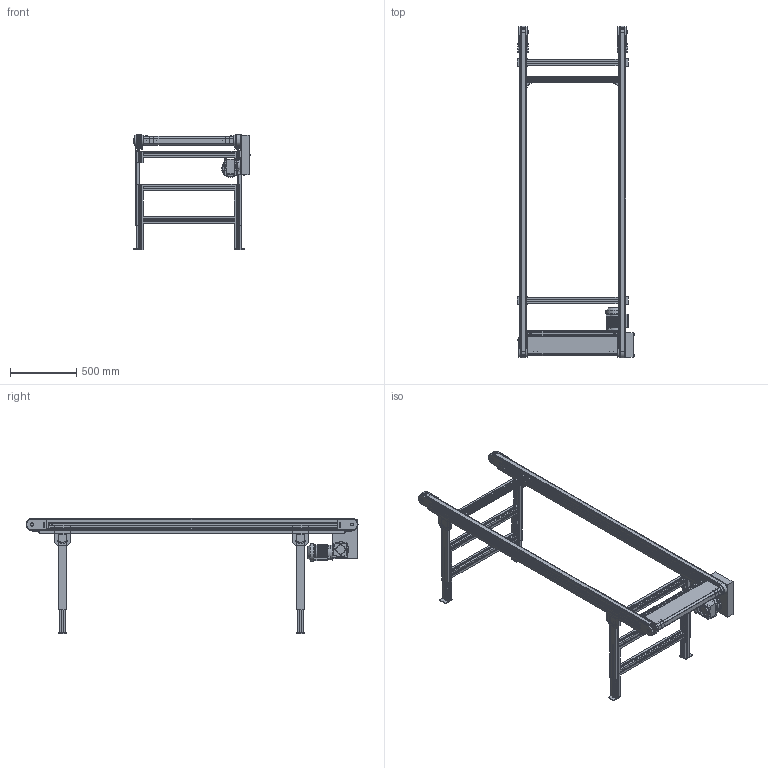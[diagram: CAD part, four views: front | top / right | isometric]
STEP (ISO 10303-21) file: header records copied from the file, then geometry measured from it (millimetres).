
FILE_DESCRIPTION(/* description */ (''),/* implementation_level */ '2;1');
FILE_NAME(/* name */ 'C:\Marketing\01_Versamove-SPU_STEP-Dateien-Homepage\Versamove plus\STEP-Dateien\Zahnriemenförderer_ZRF-P-2010_B800_L2500.stp',/* time_stamp */ '2016-12-22T11:34:15+01:00',/* author */ ('herbert.engels'),/* organization */ (''),/* preprocessor_version */ 'ST-DEVELOPER v15.6',/* originating_system */ 'Autodesk Inventor 2015',/* authorisation */ '');
FILE_SCHEMA (('CONFIG_CONTROL_DESIGN'));
Products named in the file (1): Zahnriemenförderer_ZRF-P-2010_B800_L2500
Bounding box: 890.65 x 2511.13 x 870.56 mm (x, y, z)
Volume: 39496109.1 mm3; surface area: 9323666.6 mm2
Topology: 3 solids, 3 shells, 3688 faces, 11037 edges, 7160 vertices
Faces by surface type: plane 2532, cylinder 855, bspline 172, cone 116, torus 11, sphere 2
Full cylindrical faces by diameter (mm): 7 x4, 8 x32, 13 x12, 16.2 x4, 19 x2, 20 x5, 24 x1, 25.5 x4, 30 x1, 35 x6, 40 x4, 56 x2, 72 x1, 87.127 x1, 117 x1, 120 x1, 132 x1
Entity records: 130476 total; most frequent: CARTESIAN_POINT 27944, ORIENTED_EDGE 21770, DIRECTION 19398, EDGE_CURVE 10875, LINE 7932, VECTOR 7932, VERTEX_POINT 7122, AXIS2_PLACEMENT_3D 5733
